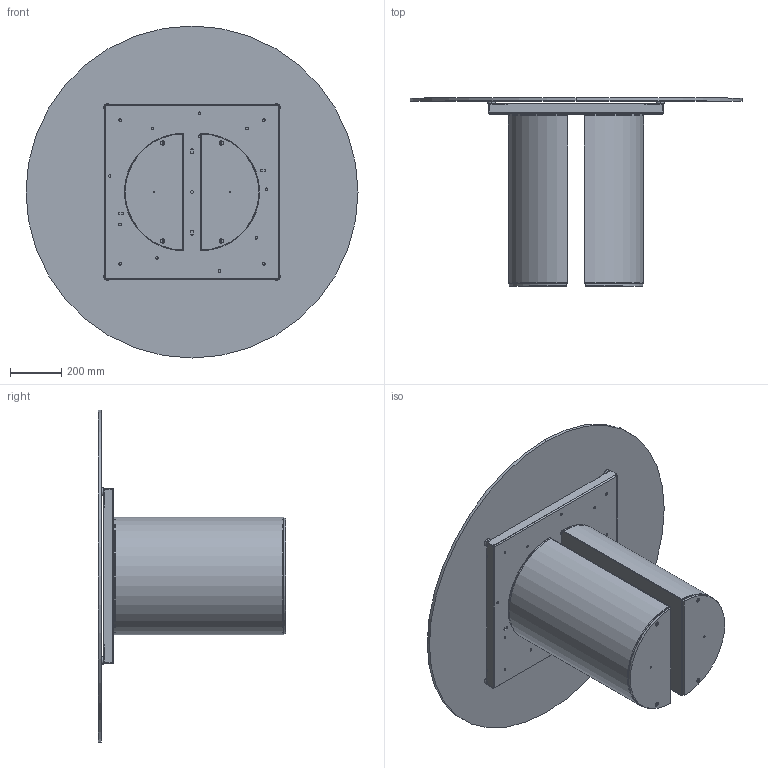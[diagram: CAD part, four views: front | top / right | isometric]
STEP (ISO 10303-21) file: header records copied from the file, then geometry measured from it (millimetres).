
FILE_DESCRIPTION (( 'STEP AP203' ), '1' );
FILE_NAME ('DR05G.STEP', '2024-08-06T12:57:57', ( '' ), ( '' ), 'SwSTEP 2.0', 'SolidWorks 2022', '' );
FILE_SCHEMA (( 'CONFIG_CONTROL_DESIGN' ));
Length unit declared in the file: millimetre
Products named in the file (12): PLA000000BAS-00-PLAI BASE GREZZA; 434070-00-PIEDINO TPV GOMMA NERO D. 30x8max18_filo estetico; PLA000000ZOC-01-PLAI ZOCCOLO DELLA BASE; TTAV0801 TELAIO UNIVERSALE TONDO-PIASTRINA; M8xXXmm_hex_M8X20mm; M8xXXmm_hex_M8X60mm; C1XCRMXX-00-piani Rotondi Cristallo_C05 D.130cm; DR05G; TTAV0801-02-TELAIO UNIVERSALE TONDO; COLLO TELAIO UNIVERSALE TTAV0801 CON FERRAMENTA_MTG TOP CRISTALLO VERNICIATO-CERAMICA; TTAV0801-02-TELAIO UNIVERSALE TONDO-VASSOIO; Assieme Basamento PLAI_Basamento per tavoli
Assembly tree (18 placements, depth 4):
  DR05G
    Assieme Basamento PLAI_Basamento per tavoli  x2
      PLA000000BAS-00-PLAI BASE GREZZA
      PLA000000ZOC-01-PLAI ZOCCOLO DELLA BASE
      M8xXXmm_hex_M8X60mm
      M8xXXmm_hex_M8X20mm
    COLLO TELAIO UNIVERSALE TTAV0801 CON FERRAMENTA_MTG TOP CRISTALLO VERNICIATO-CERAMICA
      TTAV0801-02-TELAIO UNIVERSALE TONDO
        TTAV0801-02-TELAIO UNIVERSALE TONDO-VASSOIO
        TTAV0801 TELAIO UNIVERSALE TONDO-PIASTRINA  x4
      434070-00-PIEDINO TPV GOMMA NERO D. 30x8max18_filo estetico  x4
    C1XCRMXX-00-piani Rotondi Cristallo_C05 D.130cm
Bounding box: 1300 x 736 x 1300 mm (x, y, z)
Volume: 23793316.1 mm3; surface area: 7756271.7 mm2
Topology: 28 solids, 28 shells, 706 faces, 1778 edges, 1124 vertices
Faces by surface type: plane 358, cylinder 288, cone 36, torus 24
Entity records: 14853 total; most frequent: DIRECTION 2427, CARTESIAN_POINT 2288, ORIENTED_EDGE 2238, EDGE_CURVE 1119, AXIS2_PLACEMENT_3D 853, VECTOR 721, LINE 721, VERTEX_POINT 714
